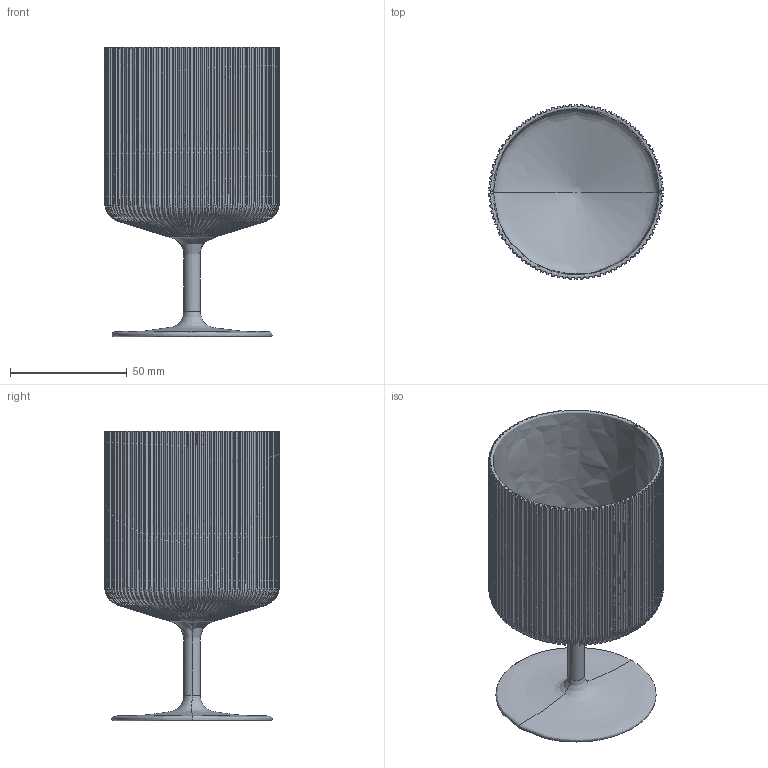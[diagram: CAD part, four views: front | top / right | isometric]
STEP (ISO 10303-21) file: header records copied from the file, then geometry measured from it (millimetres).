
FILE_DESCRIPTION(/* description */ (''),/* implementation_level */ '2;1');
FILE_NAME(/* name */ 'Ripple wine glass_3D',/* time_stamp */ '2023-11-22T10:54:05+01:00',/* author */ (''),/* organization */ (''),/* preprocessor_version */ 'ST-DEVELOPER v16.5',/* originating_system */ 'Rhino 7.34',/* authorisation */ '');
FILE_SCHEMA (('CONFIG_CONTROL_DESIGN'));
Length unit declared in the file: millimetre
Products named in the file (1): Document
Bounding box: 74.77 x 74.79 x 123.99 mm (x, y, z)
Volume: 43917.7 mm3; surface area: 55938.7 mm2
Topology: 1 solids, 1 shells, 194 faces, 303 edges, 199 vertices
Faces by surface type: bspline 194
Entity records: 97722 total; most frequent: CARTESIAN_POINT 95580, ORIENTED_EDGE 598, EDGE_CURVE 299, EDGE_LOOP 286, VERTEX_POINT 199, ADVANCED_FACE 194, FACE_OUTER_BOUND 194, B_SPLINE_CURVE_WITH_KNOTS 188
